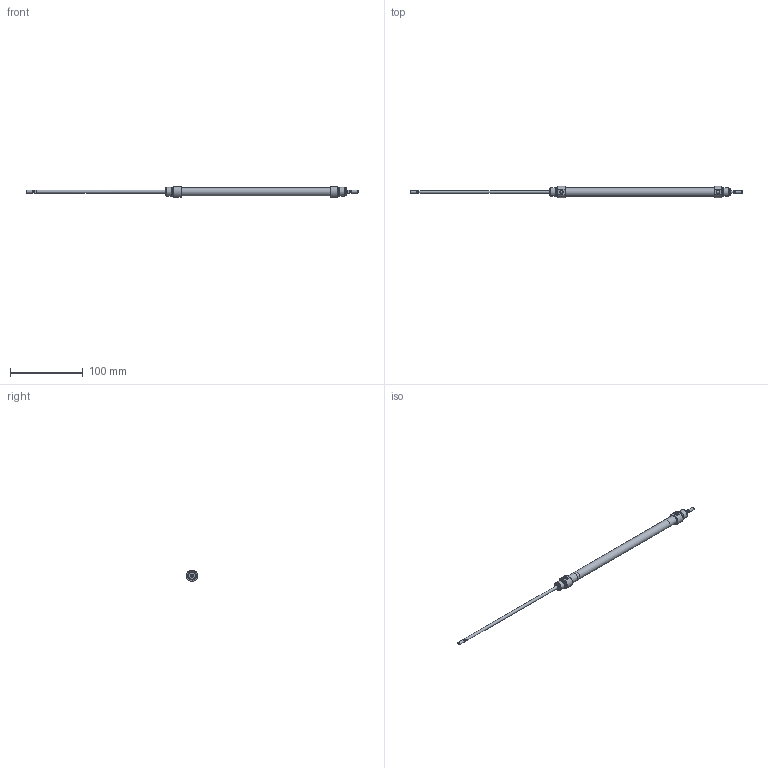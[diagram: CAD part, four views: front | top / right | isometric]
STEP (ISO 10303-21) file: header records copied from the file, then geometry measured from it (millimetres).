
FILE_DESCRIPTION( ( 'STEP AP203' ), '1' );
FILE_NAME( '//expscmdclustefs.cadenas.external/client_exchange/iodir/jobs/output/wkb68274645_no0/STEP/M101-010-0175-M__0__2_03.stp', ' ', ( ' ' ), ( ' ' ), 'PSStep 15.0.47', 'PARTsolutions', ' ' );
FILE_SCHEMA( ( 'CONFIG_CONTROL_DESIGN' ) );
Length unit declared in the file: millimetre
Products named in the file (3): M101-010-0175-M [0]; HI_M101-010-0175-M-[0]-z; HI_M101-010-0175-M-[0]-k
Assembly tree (2 placements, depth 2):
  M101-010-0175-M [0]
    HI_M101-010-0175-M-[0]-z
    HI_M101-010-0175-M-[0]-k
Bounding box: 456 x 15.77 x 14.87 mm (x, y, z)
Volume: 17814 mm3; surface area: 22387.2 mm2
Topology: 2 solids, 2 shells, 71 faces, 145 edges, 88 vertices
Faces by surface type: plane 32, cylinder 23, cone 14, torus 2
Full cylindrical faces by diameter (mm): 3.141 x2, 4 x6, 4.134 x2, 10 x2, 10.466 x4, 11.3 x1, 12 x4
Entity records: 1838 total; most frequent: CARTESIAN_POINT 358, DIRECTION 312, ORIENTED_EDGE 212, AXIS2_PLACEMENT_3D 140, EDGE_LOOP 120, EDGE_CURVE 106, FACE_OUTER_BOUND 94, VERTEX_POINT 82
